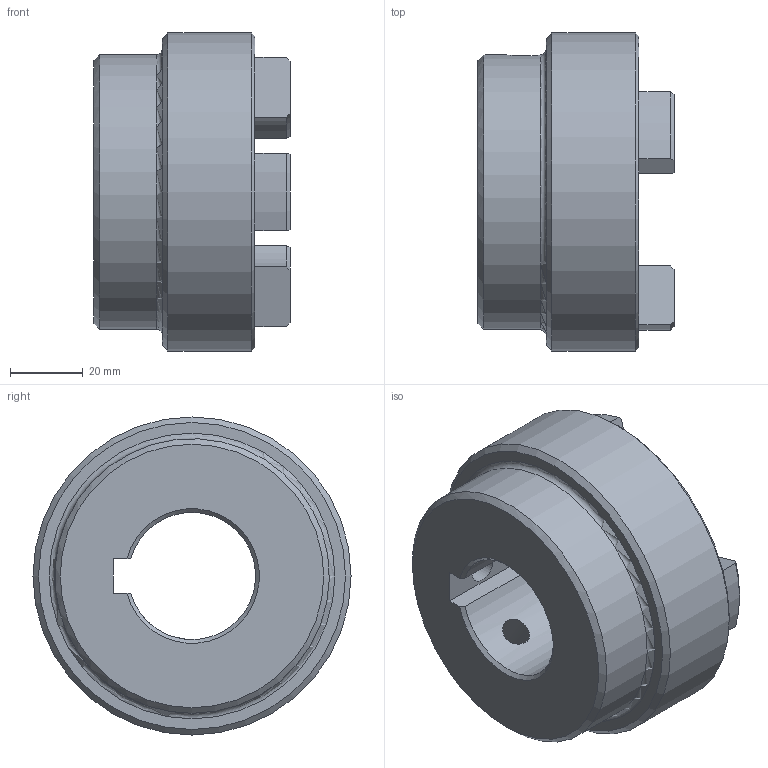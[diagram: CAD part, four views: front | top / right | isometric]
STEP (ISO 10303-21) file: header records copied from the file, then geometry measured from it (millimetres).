
FILE_DESCRIPTION (( 'STEP AP203' ), '1' );
FILE_NAME ('RC3.step', '2024-07-24T12:50:41', ( 'Adlan' ), ( '' ), 'SwSTEP 2.0', 'SolidWorks 2013', '' );
FILE_SCHEMA (( 'CONFIG_CONTROL_DESIGN' ));
Length unit declared in the file: inch
Products named in the file (1): RC3
Bounding box: 53.85 x 87.38 x 87.38 mm (x, y, z)
Volume: 161667.8 mm3; surface area: 30685.4 mm2
Topology: 1 solids, 1 shells, 69 faces, 182 edges, 115 vertices
Faces by surface type: cylinder 26, plane 18, torus 13, cone 12
Full cylindrical faces by diameter (mm): 7.937 x2, 75.438 x1, 87.376 x1
Entity records: 2361 total; most frequent: CARTESIAN_POINT 616, DIRECTION 364, ORIENTED_EDGE 332, EDGE_CURVE 166, AXIS2_PLACEMENT_3D 147, VERTEX_POINT 109, EDGE_LOOP 85, CIRCLE 77
